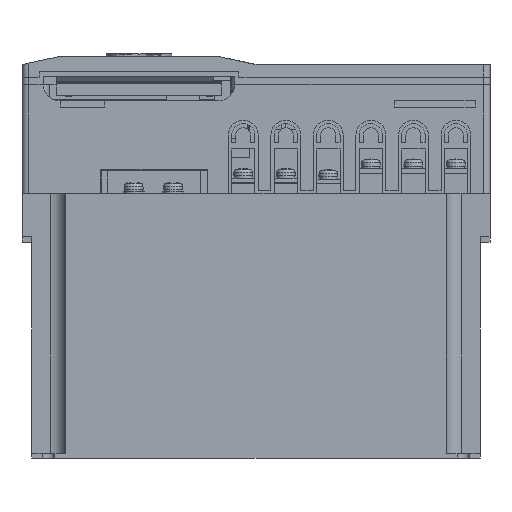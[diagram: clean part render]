
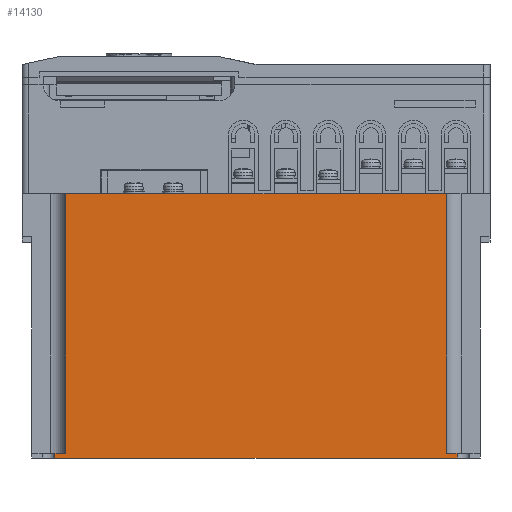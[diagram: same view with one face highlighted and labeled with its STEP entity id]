
A CAD part, front view. The second image highlights one B-rep face of the part: STEP entity #14130.
In plain terms, the highlighted planar face has unit normal (0, -1, 0).
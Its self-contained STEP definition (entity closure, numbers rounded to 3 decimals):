
#3738=DIRECTION('',(0.,0.,1.));
#3739=VECTOR('',#3738,122.);
#3740=CARTESIAN_POINT('',(89.5,-150.,2.3));
#3741=LINE('',#3740,#3739);
#3766=DIRECTION('',(1.,0.,0.));
#3767=VECTOR('',#3766,179.);
#3768=CARTESIAN_POINT('',(-89.5,-150.,124.3));
#3769=LINE('',#3768,#3767);
#3770=DIRECTION('',(1.,0.,0.));
#3771=VECTOR('',#3770,5.);
#3772=CARTESIAN_POINT('',(89.5,-150.,2.3));
#3773=LINE('',#3772,#3771);
#3774=DIRECTION('',(0.,0.,1.));
#3775=VECTOR('',#3774,2.3);
#3776=CARTESIAN_POINT('',(94.5,-150.,0.));
#3777=LINE('',#3776,#3775);
#3778=DIRECTION('',(0.,0.,1.));
#3779=VECTOR('',#3778,2.3);
#3780=CARTESIAN_POINT('',(-94.5,-150.,0.));
#3781=LINE('',#3780,#3779);
#3782=DIRECTION('',(1.,0.,0.));
#3783=VECTOR('',#3782,5.);
#3784=CARTESIAN_POINT('',(-94.5,-150.,2.3));
#3785=LINE('',#3784,#3783);
#3823=DIRECTION('',(1.,0.,0.));
#3824=VECTOR('',#3823,189.);
#3825=CARTESIAN_POINT('',(-94.5,-150.,0.));
#3826=LINE('',#3825,#3824);
#4123=DIRECTION('',(0.,0.,-1.));
#4124=VECTOR('',#4123,122.);
#4125=CARTESIAN_POINT('',(-89.5,-150.,124.3));
#4126=LINE('',#4125,#4124);
#6963=CARTESIAN_POINT('',(-94.5,-150.,0.));
#6965=VERTEX_POINT('',#6963);
#6967=CARTESIAN_POINT('',(94.5,-150.,0.));
#6969=VERTEX_POINT('',#6967);
#6977=CARTESIAN_POINT('',(-94.5,-150.,2.3));
#6978=VERTEX_POINT('',#6977);
#6979=CARTESIAN_POINT('',(94.5,-150.,2.3));
#6980=VERTEX_POINT('',#6979);
#6999=CARTESIAN_POINT('',(-89.5,-150.,2.3));
#7000=VERTEX_POINT('',#6999);
#7001=CARTESIAN_POINT('',(89.5,-150.,2.3));
#7002=VERTEX_POINT('',#7001);
#7173=CARTESIAN_POINT('',(-89.5,-150.,124.3));
#7174=CARTESIAN_POINT('',(89.5,-150.,124.3));
#7175=VERTEX_POINT('',#7173);
#7176=VERTEX_POINT('',#7174);
#14109=CARTESIAN_POINT('',(-105.5,-150.,0.));
#14110=DIRECTION('',(0.,-1.,0.));
#14111=DIRECTION('',(1.,0.,0.));
#14112=AXIS2_PLACEMENT_3D('',#14109,#14110,#14111);
#14113=PLANE('',#14112);
#14115=ORIENTED_EDGE('',*,*,#14114,.F.);
#14116=ORIENTED_EDGE('',*,*,#11200,.T.);
#14117=ORIENTED_EDGE('',*,*,#14068,.F.);
#14119=ORIENTED_EDGE('',*,*,#14118,.T.);
#14121=ORIENTED_EDGE('',*,*,#14120,.F.);
#14123=ORIENTED_EDGE('',*,*,#14122,.F.);
#14125=ORIENTED_EDGE('',*,*,#14124,.T.);
#14127=ORIENTED_EDGE('',*,*,#14126,.T.);
#14128=EDGE_LOOP('',(#14115,#14116,#14117,#14119,#14121,#14123,#14125,#14127));
#14129=FACE_OUTER_BOUND('',#14128,.F.);
#14130=ADVANCED_FACE('',(#14129),#14113,.T.);
#11200=EDGE_CURVE('',#7175,#7176,#3769,.T.);
#14068=EDGE_CURVE('',#7002,#7176,#3741,.T.);
#14114=EDGE_CURVE('',#7175,#7000,#4126,.T.);
#14118=EDGE_CURVE('',#7002,#6980,#3773,.T.);
#14120=EDGE_CURVE('',#6969,#6980,#3777,.T.);
#14122=EDGE_CURVE('',#6965,#6969,#3826,.T.);
#14124=EDGE_CURVE('',#6965,#6978,#3781,.T.);
#14126=EDGE_CURVE('',#6978,#7000,#3785,.T.);
